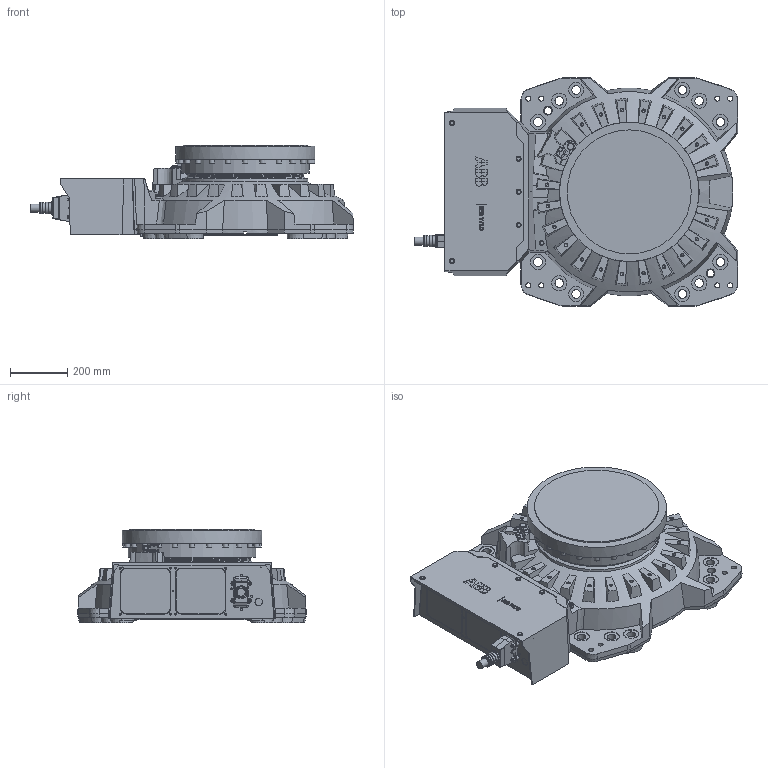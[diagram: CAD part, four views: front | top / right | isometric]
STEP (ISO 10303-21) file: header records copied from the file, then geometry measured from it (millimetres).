
FILE_DESCRIPTION (( 'STEP AP214' ), '1' );
FILE_NAME ('IRB7710_All_OC_00_BASE_CAD.step', '2026-01-28T09:31:18', ( '' ), ( '' ), 'SwSTEP 2.0', 'SolidWorks 2024', '' );
FILE_SCHEMA (( 'AUTOMOTIVE_DESIGN' ));
Length unit declared in the file: millimetre
Products named in the file (1): IRB7710_All_OC_00_BASE_CAD
Bounding box: 1124.5 x 795 x 327 mm (x, y, z)
Volume: 112947168.9 mm3; surface area: 2943682.1 mm2
Topology: 1 solids, 1 shells, 1134 faces, 2816 edges, 1832 vertices
Faces by surface type: plane 680, cylinder 229, cone 185, bspline 32, torus 4, sphere 4
Full cylindrical faces by diameter (mm): 5.2 x4, 5.45 x1, 6 x2, 6.6 x4, 6.8 x8, 10 x4, 10.2 x20, 11.05 x2, 12 x8, 17 x1, 17.5 x8, 17.7 x1, 18.3 x24, 19.7 x2, 20 x1, 23 x1, 25 x1, 28 x1, 30 x14, 36 x3, 40 x4, 45 x5, 53 x12, 404 x1, 406 x1, 431.5 x1, 444 x1, 485 x1
Entity records: 47143 total; most frequent: CARTESIAN_POINT 9168, DIRECTION 5074, ORIENTED_EDGE 5048, EDGE_CURVE 2524, AXIS2_PLACEMENT_3D 1824, VERTEX_POINT 1752, EDGE_LOOP 1538, VECTOR 1426
